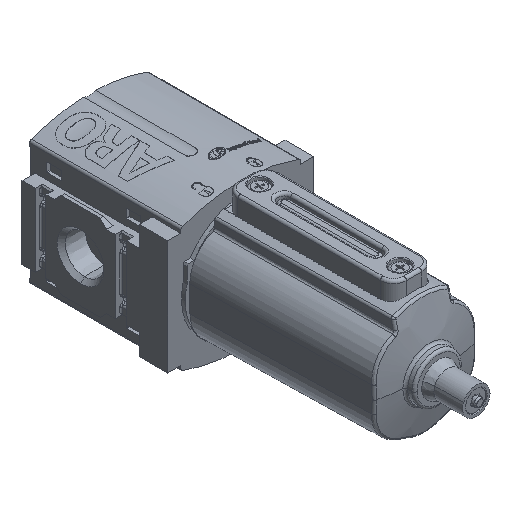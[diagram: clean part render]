
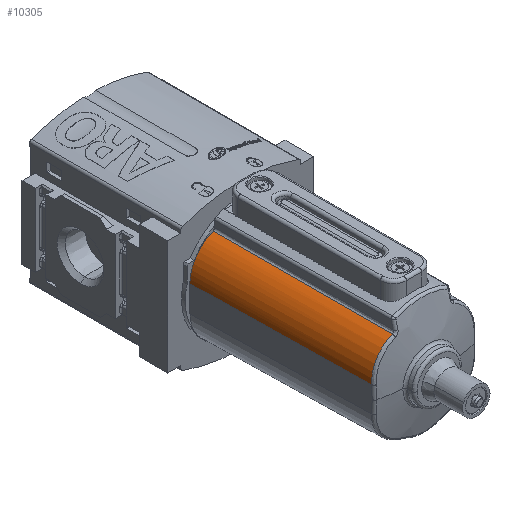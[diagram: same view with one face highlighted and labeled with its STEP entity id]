
A CAD part, isometric view. The second image highlights one B-rep face of the part: STEP entity #10305.
In plain terms, the highlighted cylindrical face has radius 14 mm (diameter 28 mm), a partial arc.
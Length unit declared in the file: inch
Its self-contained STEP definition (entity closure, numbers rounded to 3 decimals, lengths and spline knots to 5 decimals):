
#9164=FACE_OUTER_BOUND('',#12551,.T.);
#9514=(
BOUNDED_CURVE()
B_SPLINE_CURVE(3,(#45813,#45814,#45815,#45816,#45817,#45818,#45819,#45820,
#45821,#45822,#45823,#45824,#45825,#45826,#45827,#45828,#45829,#45830,#45831,
#45832,#45833,#45834,#45835,#45836,#45837,#45838,#45839,#45840,#45841,#45842),
.UNSPECIFIED.,.F.,.F.)
B_SPLINE_CURVE_WITH_KNOTS((4,2,2,2,2,2,2,2,2,2,2,2,2,2,4),(0.,0.0625,0.09375,
0.125,0.25,0.375,0.40625,0.4375,0.5,0.625,0.6875,0.71875,0.75,
0.875,1.),.UNSPECIFIED.)
CURVE()
GEOMETRIC_REPRESENTATION_ITEM()
RATIONAL_B_SPLINE_CURVE((1.,1.,1.,1.,1.,1.,1.,1.,1.,1.,1.,1.,1.,1.,1.,1.,
1.,1.,1.,1.,1.,1.,1.,1.,1.,1.,1.,1.,1.,1.))
REPRESENTATION_ITEM('')
);
#10305=ADVANCED_FACE('',(#9164),#10854,.T.);
#10854=CYLINDRICAL_SURFACE('',#27753,0.55118);
#11570=B_SPLINE_CURVE_WITH_KNOTS('',3,(#45648,#45649,#45650,#45651,#45652,
#45653,#45654,#45655,#45656,#45657,#45658,#45659,#45660,#45661,#45662,#45663,
#45664,#45665,#45666,#45667,#45668,#45669),.UNSPECIFIED.,.F.,.F.,(4,2,2,
2,2,2,2,2,1,1,2,4),(0.,0.25,0.375,0.4375,
0.5,0.75,0.875,0.9375,0.96875,0.98438,0.99219,
1.),.UNSPECIFIED.);
#11580=B_SPLINE_CURVE_WITH_KNOTS('',3,(#45798,#45799,#45800,#45801),.UNSPECIFIED.,
.F.,.F.,(4,4),(0.,1.),.UNSPECIFIED.);
#11583=B_SPLINE_CURVE_WITH_KNOTS('',3,(#45844,#45845,#45846,#45847),.UNSPECIFIED.,
.F.,.F.,(4,4),(0.,1.),.UNSPECIFIED.);
#12551=EDGE_LOOP('',(#20417,#20418,#20419,#20420));
#20417=ORIENTED_EDGE('',*,*,#25899,.F.);
#20418=ORIENTED_EDGE('',*,*,#25900,.T.);
#20419=ORIENTED_EDGE('',*,*,#25881,.T.);
#20420=ORIENTED_EDGE('',*,*,#25896,.F.);
#23375=VERTEX_POINT('',#45647);
#23376=VERTEX_POINT('',#45670);
#23384=VERTEX_POINT('',#45802);
#23386=VERTEX_POINT('',#45843);
#25881=EDGE_CURVE('',#23376,#23375,#11570,.T.);
#25896=EDGE_CURVE('',#23384,#23375,#11580,.T.);
#25899=EDGE_CURVE('',#23386,#23384,#9514,.T.);
#25900=EDGE_CURVE('',#23386,#23376,#11583,.T.);
#27753=AXIS2_PLACEMENT_3D('',#45848,#31023,#31024);
#31023=DIRECTION('',(-0.021,1.,0.002));
#31024=DIRECTION('',(-1.,-0.021,0.));
#45647=CARTESIAN_POINT('',(-0.82677,-0.03937,0.19689));
#45648=CARTESIAN_POINT('',(-0.47769,-0.03937,0.70964));
#45649=CARTESIAN_POINT('',(-0.53405,-0.03937,0.68743));
#45650=CARTESIAN_POINT('',(-0.58396,-0.03938,0.65698));
#45651=CARTESIAN_POINT('',(-0.6475,-0.03938,0.60457));
#45652=CARTESIAN_POINT('',(-0.66682,-0.03938,0.58598));
#45653=CARTESIAN_POINT('',(-0.69302,-0.03937,0.55703));
#45654=CARTESIAN_POINT('',(-0.70129,-0.03937,0.5472));
#45655=CARTESIAN_POINT('',(-0.71693,-0.03937,0.52728));
#45656=CARTESIAN_POINT('',(-0.72338,-0.03937,0.51853));
#45657=CARTESIAN_POINT('',(-0.76257,-0.03937,0.46098));
#45658=CARTESIAN_POINT('',(-0.78664,-0.03938,0.4105));
#45659=CARTESIAN_POINT('',(-0.81072,-0.03938,0.33175));
#45660=CARTESIAN_POINT('',(-0.81675,-0.03938,0.305));
#45661=CARTESIAN_POINT('',(-0.82277,-0.03938,0.26457));
#45662=CARTESIAN_POINT('',(-0.82427,-0.03937,0.25104));
#45663=CARTESIAN_POINT('',(-0.82577,-0.03937,0.23073));
#45664=CARTESIAN_POINT('',(-0.82633,-0.03937,0.22058));
#45665=CARTESIAN_POINT('',(-0.82666,-0.03937,0.20873));
#45666=CARTESIAN_POINT('',(-0.82673,-0.03937,0.20366));
#45667=CARTESIAN_POINT('',(-0.82676,-0.03937,0.20027));
#45668=CARTESIAN_POINT('',(-0.82677,-0.03937,0.19727));
#45669=CARTESIAN_POINT('',(-0.82677,-0.03937,0.19689));
#45670=CARTESIAN_POINT('',(-0.47769,-0.03937,0.70964));
#45798=CARTESIAN_POINT('',(-0.77038,-2.73139,0.19139));
#45799=CARTESIAN_POINT('',(-0.78918,-1.83405,0.19323));
#45800=CARTESIAN_POINT('',(-0.80798,-0.93671,0.19506));
#45801=CARTESIAN_POINT('',(-0.82677,-0.03937,0.19689));
#45802=CARTESIAN_POINT('',(-0.77038,-2.73139,0.19139));
#45813=CARTESIAN_POINT('',(-0.45207,-2.72379,0.69101));
#45814=CARTESIAN_POINT('',(-0.46384,-2.72338,0.68553));
#45815=CARTESIAN_POINT('',(-0.47543,-2.723,0.67963));
#45816=CARTESIAN_POINT('',(-0.49255,-2.72248,0.67014));
#45817=CARTESIAN_POINT('',(-0.49821,-2.72232,0.66687));
#45818=CARTESIAN_POINT('',(-0.50944,-2.72201,0.6601));
#45819=CARTESIAN_POINT('',(-0.51503,-2.72186,0.65661));
#45820=CARTESIAN_POINT('',(-0.54251,-2.72117,0.63869));
#45821=CARTESIAN_POINT('',(-0.56324,-2.72077,0.62295));
#45822=CARTESIAN_POINT('',(-0.60227,-2.72026,0.58875));
#45823=CARTESIAN_POINT('',(-0.62057,-2.72015,0.57029));
#45824=CARTESIAN_POINT('',(-0.64189,-2.7202,0.54546));
#45825=CARTESIAN_POINT('',(-0.64607,-2.72022,0.54041));
#45826=CARTESIAN_POINT('',(-0.65428,-2.72027,0.53013));
#45827=CARTESIAN_POINT('',(-0.65828,-2.72031,0.52492));
#45828=CARTESIAN_POINT('',(-0.66998,-2.72045,0.50915));
#45829=CARTESIAN_POINT('',(-0.67736,-2.72058,0.49841));
#45830=CARTESIAN_POINT('',(-0.6983,-2.72109,0.46551));
#45831=CARTESIAN_POINT('',(-0.71065,-2.72156,0.44269));
#45832=CARTESIAN_POINT('',(-0.72675,-2.7225,0.40714));
#45833=CARTESIAN_POINT('',(-0.73171,-2.72285,0.39507));
#45834=CARTESIAN_POINT('',(-0.73853,-2.72342,0.37662));
#45835=CARTESIAN_POINT('',(-0.74071,-2.72362,0.3704));
#45836=CARTESIAN_POINT('',(-0.74481,-2.72404,0.35794));
#45837=CARTESIAN_POINT('',(-0.74675,-2.72426,0.35169));
#45838=CARTESIAN_POINT('',(-0.75584,-2.72539,0.32035));
#45839=CARTESIAN_POINT('',(-0.76129,-2.72641,0.29498));
#45840=CARTESIAN_POINT('',(-0.76857,-2.72872,0.24364));
#45841=CARTESIAN_POINT('',(-0.77041,-2.72999,0.21767));
#45842=CARTESIAN_POINT('',(-0.77038,-2.73139,0.19139));
#45843=CARTESIAN_POINT('',(-0.45207,-2.72379,0.69101));
#45844=CARTESIAN_POINT('',(-0.45207,-2.72379,0.69101));
#45845=CARTESIAN_POINT('',(-0.4603,-1.8616,0.69735));
#45846=CARTESIAN_POINT('',(-0.46884,-0.9668,0.70358));
#45847=CARTESIAN_POINT('',(-0.47769,-0.03937,0.70964));
#45848=CARTESIAN_POINT('',(4946.79901,-236170.90839,-482.46852));
